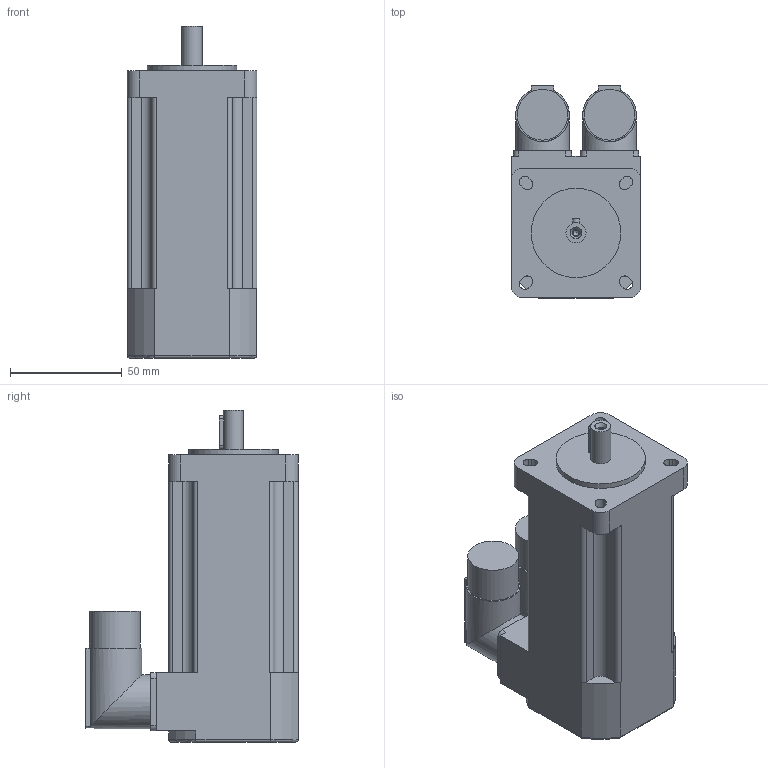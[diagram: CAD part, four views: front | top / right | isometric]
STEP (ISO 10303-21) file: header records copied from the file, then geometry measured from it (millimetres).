
FILE_DESCRIPTION(/* description */ (''),/* implementation_level */ '2;1');
FILE_NAME(/* name */ 'C:\Users\Pastrello_Ylenia\Desktop\Modelli 3D Serad\B28Q\Resolver\Resolver Brake\B28D5Qxx6B052000.stp',/* time_stamp */ '2015-06-10T17:02:34+02:00',/* author */ ('Pastrello_Ylenia'),/* organization */ (''),/* preprocessor_version */ 'ST-DEVELOPER v15.6',/* originating_system */ 'Autodesk Inventor 2015',/* authorisation */ '');
FILE_SCHEMA (('AUTOMOTIVE_DESIGN { 1 0 10303 214 3 1 1 }'));
Length unit declared in the file: millimetre
Products named in the file (1): B28D5Qxx6B052000
Bounding box: 58 x 95 x 148.5 mm (x, y, z)
Volume: 451280.6 mm3; surface area: 47454.5 mm2
Topology: 1 solids, 1 shells, 140 faces, 374 edges, 243 vertices
Faces by surface type: plane 72, cylinder 62, torus 4, cone 2
Full cylindrical faces by diameter (mm): 2.5 x1, 3.2 x1, 9 x1, 22.7 x2, 24 x2, 40 x1
Entity records: 4441 total; most frequent: CARTESIAN_POINT 879, DIRECTION 757, ORIENTED_EDGE 722, EDGE_CURVE 360, AXIS2_PLACEMENT_3D 268, VERTEX_POINT 240, LINE 221, VECTOR 221
